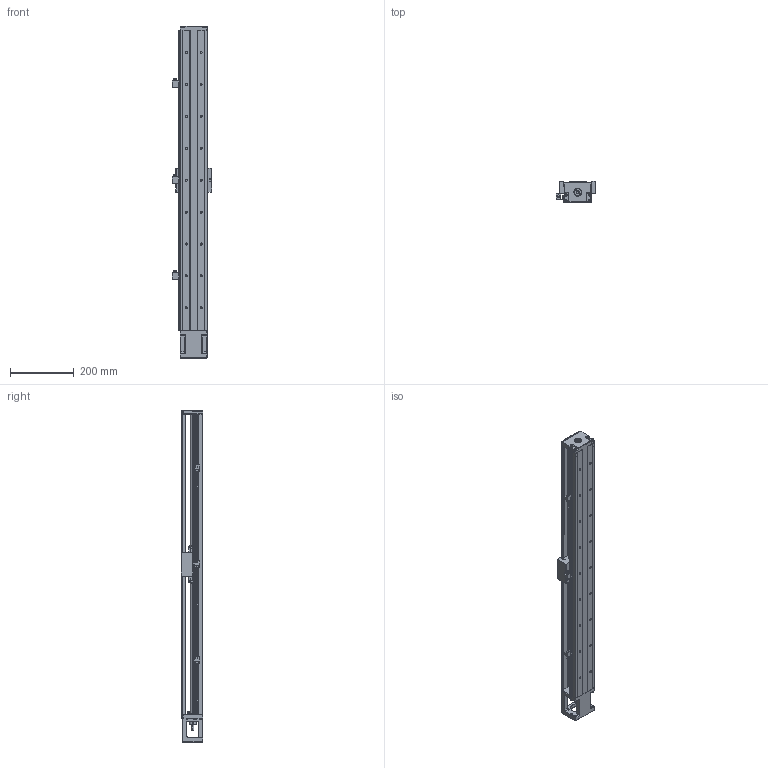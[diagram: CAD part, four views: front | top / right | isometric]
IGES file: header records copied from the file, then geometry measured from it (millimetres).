
Start section: SolidWorks IGES file using analytic representation for surfaces
Bounding box: 122.8 x 68 x 1040 mm (x, y, z)
Surface area: 667067.5 mm2 (no closed solid volume)
Topology: 0 solids, 0 shells, 1665 faces, 19496 edges, 19344 vertices
Faces by surface type: bspline 945, revolution 720
